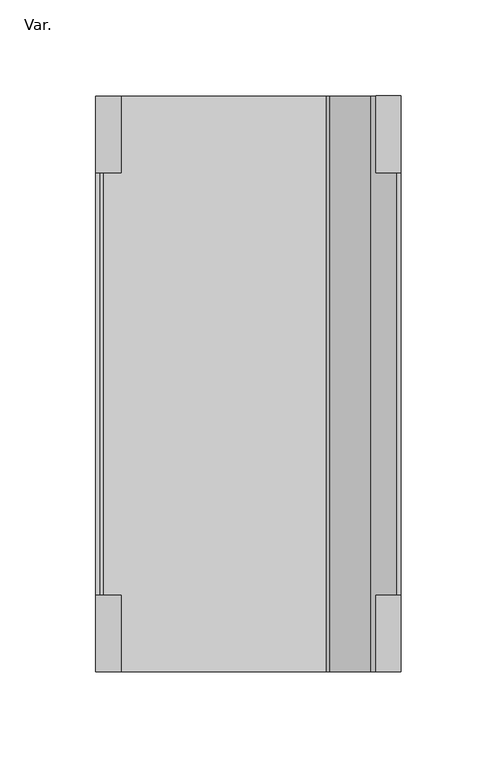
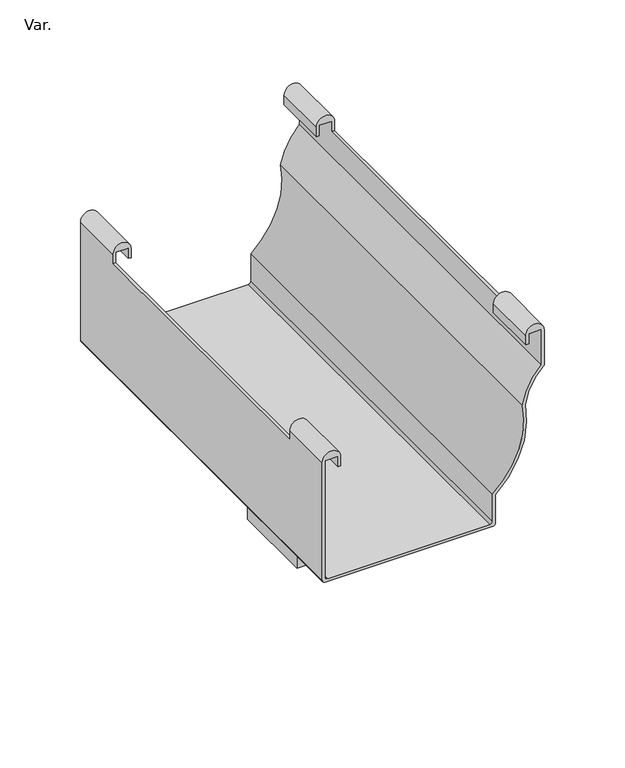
"""IFC4 building model written with IfcOpenShell, lengths in millimetres: pipe fitting geometry, PlastigamaWavin_Unionesdetubería_CanalesyBajantesZ_NoUsarUnióndeCanalBajante : Var.."""

from ifc_helpers import new_model, si_unit, frame, origin, place, context, project, spatial, polyline, circle_curve, outline, extrude, source, transform, mapped, element, save
from ifc_brep_helpers import plane_surface, cylinder_surface, revolved_surface, advanced_brep


def var_139db1cd(model_context):
    return source(origin(), model_context, "Body", "SolidModel", [
        extrude(outline(polyline([(215.5, -1.98), (183.55, -42.98), (116.45, -42.98), (84.5, -1.98), (215.5, -1.98)])), frame((-33.55, 0.0, 0.0), z_axis=(1.0, 0.0, 0.0), x_axis=(0.0, 1.0, 0.0)), (0.0, 0.0, 1.0), 67.1),
        extrude(outline(polyline([(28.63, 180.57), (28.63, 119.43), (-28.63, 119.43), (-28.63, 180.57), (28.63, 180.57)])), frame((0.0, 0.0, -80.98), z_axis=(0.0, 0.0, 1.0), x_axis=(1.0, 0.0, 0.0)), (0.0, 0.0, 1.0), 38.0),
        advanced_brep(
        [(40.54, 0.0, 0.0), (-75.54, 0.0, 0.0), (-77.52, 0.0, 1.98), (-77.52, 0.0, 89.9970327), (-68.375625, 0.0, 89.9970327), (-68.375625, 0.0, 82.1921011), (-66.395625, 0.0, 82.1921011), (-66.395625, 0.0, 89.2370327), (-79.5, 0.0, 89.2370327), (-79.5, 0.0, -0.0044269), (-77.532319, 0.0, -1.9721079), (42.7821347, 0.0, -1.98), (44.5, 0.0, 0.0), (44.5, 0.0, 21.5976754), (65.9131853, 0.0, 82.443142), (79.5, 0.0, 107.5123389), (79.5, 0.0, 134.2786343), (66.395625, 0.0, 134.2786343), (66.395625, 0.0, 127.2386343), (68.415625, 0.0, 127.2386343), (68.415625, 0.0, 135.0386343), (77.5042969, 0.0, 135.0386343), (77.5042969, 0.0, 108.3479503), (63.8929499, 0.0, 82.4684495), (42.52, 0.0, 22.5118086), (42.52, 0.0, 1.98), (40.54, 300.0, 0.0), (42.52, 300.0, 1.98), (42.52, 300.0, 22.5118086), (63.8929499, 300.0, 82.4684495), (77.5042969, 300.0, 108.3479503), (77.5042969, 300.0, 135.0386343), (68.415625, 300.0, 135.0386343), (68.415625, 300.0, 127.2386343), (66.395625, 300.0, 127.2386343), (66.395625, 300.0, 134.2786343), (79.5, 300.0, 134.2786343), (79.5, 300.0, 107.5123389), (65.9131853, 300.0, 82.443142), (44.5, 300.0, 21.5976754), (44.5, 300.0, 0.0), (42.7821347, 300.0, -1.98), (-77.532319, 300.0, -1.98), (-79.5, 300.0, -0.0044269), (-79.5, 300.0, 89.2370327), (-66.395625, 300.0, 89.2370327), (-66.395625, 300.0, 82.1921011), (-68.375625, 300.0, 82.1921011), (-68.375625, 300.0, 89.9970327), (-77.52, 300.0, 89.9970327), (-77.52, 300.0, 1.98), (-75.54, 300.0, 0.0), (79.5, 260.0, 127.2386343), (77.5042969, 260.0, 127.2386343), (77.5042969, 40.0, 127.2386343), (79.5, 40.0, 127.2386343), (79.5, 260.0, 134.2786343), (66.395625, 260.0, 134.2786343), (66.395625, 260.0, 127.2386343), (68.415625, 260.0, 127.2386343), (68.415625, 260.0, 135.0386343), (77.5042969, 260.0, 135.0386343), (77.5042969, 40.0, 135.0386343), (68.415625, 40.0, 135.0386343), (68.415625, 40.0, 127.2386343), (66.395625, 40.0, 127.2386343), (66.395625, 40.0, 134.2786343), (79.5, 40.0, 134.2786343), (-77.52, 260.0, 89.9970327), (-77.52, 260.0, 82.1921011), (-77.52, 40.0, 82.1921011), (-77.52, 40.0, 89.9970327), (-68.375625, 40.0, 89.9970327), (-68.375625, 260.0, 89.9970327), (-68.375625, 40.0, 82.1921011), (-68.375625, 260.0, 82.1921011), (-66.395625, 40.0, 82.1921011), (-66.395625, 260.0, 82.1921011), (-66.395625, 40.0, 89.2370327), (-66.395625, 260.0, 89.2370327), (-79.5, 40.0, 89.2370327), (-79.5, 260.0, 89.2370327), (-79.5, 40.0, 82.1921011), (-79.5, 260.0, 82.1921011)],
        [
            (0, 1),
            (1, 2, circle_curve(frame((-75.54, 0.0, 1.98), z_axis=(0.0, 1.0, 0.0), x_axis=(1.0, 0.0, 0.0)), 1.98)),
            (2, 3),
            (3, 4),
            (4, 5),
            (5, 6),
            (6, 7),
            (7, 8, circle_curve(frame((-72.9478125, 0.0, 89.2370327), z_axis=(0.0, -1.0, 0.0), x_axis=(1.0, 0.0, 0.0)), 6.5521875)),
            (8, 9),
            (9, 10, circle_curve(frame((-77.532319, 0.0, -0.0044269), z_axis=(0.0, -1.0, 0.0), x_axis=(1.0, 0.0, 0.0)), 1.967681)),
            (10, 11),
            (11, 12, circle_curve(frame((42.5, 0.0, 0.0), z_axis=(0.0, -1.0, 0.0), x_axis=(1.0, 0.0, 0.0)), 2.0)),
            (12, 13),
            (13, 14, circle_curve(frame((1.6947031, 0.0, 70.8527075), z_axis=(0.0, -1.0, 0.0), x_axis=(1.0, 0.0, 0.0)), 65.2560467)),
            (14, 15, circle_curve(frame((111.7560782, 0.0, 73.8139942), z_axis=(0.0, 1.0, 0.0), x_axis=(1.0, 0.0, 0.0)), 46.6479691)),
            (15, 16),
            (16, 17, circle_curve(frame((72.9478125, 0.0, 134.2786343), z_axis=(0.0, -1.0, 0.0), x_axis=(1.0, 0.0, 0.0)), 6.5521875)),
            (17, 18),
            (18, 19),
            (19, 20),
            (20, 21),
            (21, 22),
            (22, 23, circle_curve(frame((111.7560782, 0.0, 73.8139942), z_axis=(0.0, -1.0, 0.0), x_axis=(1.0, 0.0, 0.0)), 48.6392707)),
            (23, 24, circle_curve(frame((1.6947031, 0.0, 70.8527075), z_axis=(0.0, 1.0, 0.0), x_axis=(1.0, 0.0, 0.0)), 63.2735914)),
            (24, 25),
            (25, 0, circle_curve(frame((40.54, 0.0, 1.98), z_axis=(0.0, 1.0, 0.0), x_axis=(1.0, 0.0, 0.0)), 1.98)),
            (26, 27, circle_curve(frame((40.54, 300.0, 1.98), z_axis=(0.0, -1.0, 0.0), x_axis=(1.0, 0.0, 0.0)), 1.98)),
            (27, 28),
            (28, 29, circle_curve(frame((1.6947031, 300.0, 70.8527075), z_axis=(0.0, -1.0, 0.0), x_axis=(1.0, 0.0, 0.0)), 63.2735914)),
            (29, 30, circle_curve(frame((111.7560782, 300.0, 73.8139942), z_axis=(0.0, 1.0, 0.0), x_axis=(1.0, 0.0, 0.0)), 48.6392707)),
            (30, 31),
            (31, 32),
            (32, 33),
            (33, 34),
            (34, 35),
            (35, 36, circle_curve(frame((72.9478125, 300.0, 134.2786343), z_axis=(0.0, 1.0, 0.0), x_axis=(1.0, 0.0, 0.0)), 6.5521875)),
            (36, 37),
            (37, 38, circle_curve(frame((111.7560782, 300.0, 73.8139942), z_axis=(0.0, -1.0, 0.0), x_axis=(1.0, 0.0, 0.0)), 46.6479691)),
            (38, 39, circle_curve(frame((1.6947031, 300.0, 70.8527075), z_axis=(0.0, 1.0, 0.0), x_axis=(1.0, 0.0, 0.0)), 65.2560467)),
            (39, 40),
            (40, 41, circle_curve(frame((42.5, 300.0, 0.0), z_axis=(0.0, 1.0, 0.0), x_axis=(1.0, 0.0, 0.0)), 2.0)),
            (41, 42),
            (42, 43, circle_curve(frame((-77.532319, 300.0, -0.0044269), z_axis=(0.0, 1.0, 0.0), x_axis=(1.0, 0.0, 0.0)), 1.967681)),
            (43, 44),
            (44, 45, circle_curve(frame((-72.9478125, 300.0, 89.2370327), z_axis=(0.0, 1.0, 0.0), x_axis=(1.0, 0.0, 0.0)), 6.5521875)),
            (45, 46),
            (46, 47),
            (47, 48),
            (48, 49),
            (49, 50),
            (50, 51, circle_curve(frame((-75.54, 300.0, 1.98), z_axis=(0.0, -1.0, 0.0), x_axis=(1.0, 0.0, 0.0)), 1.98)),
            (51, 26),
            (52, 53),
            (53, 54),
            (54, 55),
            (55, 52),
            (52, 56),
            (56, 57, circle_curve(frame((72.9478125, 260.0, 134.2786343), z_axis=(0.0, -1.0, 0.0), x_axis=(1.0, 0.0, 0.0)), 6.5521875)),
            (57, 58),
            (58, 59),
            (59, 60),
            (60, 61),
            (61, 53),
            (54, 62),
            (62, 63),
            (63, 64),
            (64, 65),
            (65, 66),
            (66, 67, circle_curve(frame((72.9478125, 40.0, 134.2786343), z_axis=(0.0, 1.0, 0.0), x_axis=(1.0, 0.0, 0.0)), 6.5521875)),
            (67, 55),
            (0, 26),
            (51, 1),
            (50, 2),
            (49, 68),
            (68, 69),
            (69, 70),
            (70, 71),
            (71, 3),
            (71, 72),
            (72, 4),
            (48, 73),
            (73, 68),
            (72, 74),
            (74, 5),
            (47, 75),
            (75, 73),
            (74, 76),
            (76, 6),
            (46, 77),
            (77, 75),
            (76, 78),
            (78, 7),
            (45, 79),
            (79, 77),
            (78, 80, circle_curve(frame((-72.9478125, 40.0, 89.2370327), z_axis=(0.0, -1.0, 0.0), x_axis=(1.0, 0.0, 0.0)), 6.5521875)),
            (80, 8),
            (44, 81),
            (81, 79, circle_curve(frame((-72.9478125, 260.0, 89.2370327), z_axis=(0.0, 1.0, 0.0), x_axis=(1.0, 0.0, 0.0)), 6.5521875)),
            (80, 82),
            (82, 83),
            (83, 81),
            (43, 9),
            (42, 10),
            (41, 11),
            (40, 12),
            (39, 13),
            (38, 14),
            (37, 15),
            (36, 56),
            (67, 16),
            (66, 17),
            (35, 57),
            (65, 18),
            (34, 58),
            (64, 19),
            (33, 59),
            (63, 20),
            (32, 60),
            (62, 21),
            (31, 61),
            (30, 22),
            (29, 23),
            (28, 24),
            (27, 25),
            (69, 83),
            (82, 70),
        ],
        [
            plane_surface(frame((-75.54, 0.0, 0.0), z_axis=(0.0, -1.0, 0.0), x_axis=(-1.0, 0.0, 0.0))),
            plane_surface(frame((-75.54, 300.0, 0.0), z_axis=(0.0, 1.0, 0.0), x_axis=(1.0, 0.0, 0.0))),
            plane_surface(frame((66.48, 260.0, 127.2386343), z_axis=(0.0, 0.0, 1.0), x_axis=(1.0, 0.0, 0.0))),
            plane_surface(frame((79.5, 260.0, 141.0373842), z_axis=(0.0, -1.0, 0.0), x_axis=(0.0, 0.0, -1.0))),
            plane_surface(frame((66.395625, 40.0, 141.0373842), z_axis=(0.0, 1.0, 0.0), x_axis=(0.0, 0.0, -1.0))),
            plane_surface(frame((40.54, 0.0, 0.0), z_axis=(0.0, 0.0, 1.0), x_axis=(0.0, 1.0, 0.0))),
            revolved_surface(polyline([(-73.56, 300.0, 1.98), (-73.56, 0.0, 1.98)]), (-75.54, 300.0, 1.98), (0.0, 1.0, 0.0)),
            plane_surface(frame((-77.52, 0.0, 1.98), z_axis=(1.0, 0.0, 0.0), x_axis=(0.0, 1.0, 0.0))),
            plane_surface(frame((-77.52, 0.0, 89.9970327), z_axis=(0.0, 0.0, -1.0), x_axis=(0.0, 1.0, 0.0))),
            plane_surface(frame((-68.375625, 0.0, 89.9970327), z_axis=(-1.0, 0.0, 0.0), x_axis=(0.0, 1.0, 0.0))),
            plane_surface(frame((-68.375625, 0.0, 82.1921011), z_axis=(0.0, 0.0, -1.0), x_axis=(0.0, 1.0, 0.0))),
            plane_surface(frame((-66.395625, 0.0, 82.1921011), z_axis=(1.0, 0.0, 0.0), x_axis=(0.0, 1.0, 0.0))),
            cylinder_surface(frame((-72.9478125, 300.0, 89.2370327), z_axis=(0.0, -1.0, 0.0), x_axis=(1.0, 0.0, 0.0)), 6.5521875),
            plane_surface(frame((-79.5, 0.0, 89.2370327), z_axis=(-1.0, 0.0, 0.0), x_axis=(0.0, 1.0, 0.0))),
            cylinder_surface(frame((-77.532319, 300.0, -0.0044269), z_axis=(0.0, -1.0, 0.0), x_axis=(1.0, 0.0, 0.0)), 1.967681),
            plane_surface(frame((-77.532319, 0.0, -1.98), z_axis=(0.0, 0.0, -1.0), x_axis=(0.0, 1.0, 0.0))),
            cylinder_surface(frame((42.5, 300.0, 0.0), z_axis=(0.0, -1.0, 0.0), x_axis=(1.0, 0.0, 0.0)), 2.0),
            plane_surface(frame((44.5, 0.0, 0.0), z_axis=(1.0, 0.0, 0.0), x_axis=(0.0, 1.0, 0.0))),
            cylinder_surface(frame((1.6947031, 300.0, 70.8527075), z_axis=(0.0, -1.0, 0.0), x_axis=(1.0, 0.0, 0.0)), 65.2560467),
            revolved_surface(polyline([(158.4040473, 300.0, 73.8139942), (158.4040473, 0.0, 73.8139942)]), (111.7560782, 300.0, 73.8139942), (0.0, 1.0, 0.0)),
            plane_surface(frame((79.5, 0.0, 107.5123389), z_axis=(1.0, 0.0, 0.0), x_axis=(0.0, 1.0, 0.0))),
            cylinder_surface(frame((72.9478125, 300.0, 134.2786343), z_axis=(0.0, -1.0, 0.0), x_axis=(1.0, 0.0, 0.0)), 6.5521875),
            plane_surface(frame((66.395625, 0.0, 134.2786343), z_axis=(-1.0, 0.0, 0.0), x_axis=(0.0, 1.0, 0.0))),
            plane_surface(frame((66.395625, 0.0, 127.2386343), z_axis=(0.0, 0.0, -1.0), x_axis=(0.0, 1.0, 0.0))),
            plane_surface(frame((68.415625, 0.0, 127.2386343), z_axis=(1.0, 0.0, 0.0), x_axis=(0.0, 1.0, 0.0))),
            plane_surface(frame((68.415625, 0.0, 135.0386343), z_axis=(0.0, 0.0, -1.0), x_axis=(0.0, 1.0, 0.0))),
            plane_surface(frame((77.5042969, 0.0, 135.0386343), z_axis=(-1.0, 0.0, 0.0), x_axis=(0.0, 1.0, 0.0))),
            cylinder_surface(frame((111.7560782, 300.0, 73.8139942), z_axis=(0.0, -1.0, 0.0), x_axis=(1.0, 0.0, 0.0)), 48.6392707),
            revolved_surface(polyline([(64.9682945, 300.0, 70.8527075), (64.9682945, 0.0, 70.8527075)]), (1.6947031, 300.0, 70.8527075), (0.0, 1.0, 0.0)),
            plane_surface(frame((42.52, 0.0, 22.5118086), z_axis=(-1.0, 0.0, 0.0), x_axis=(0.0, 1.0, 0.0))),
            revolved_surface(polyline([(42.519999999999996, 300.0, 1.98), (42.519999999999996, 0.0, 1.98)]), (40.54, 300.0, 1.98), (0.0, 1.0, 0.0)),
            plane_surface(frame((-79.5, 260.0, 82.1921011), z_axis=(0.0, 0.0, 1.0), x_axis=(1.0, 0.0, 0.0))),
            plane_surface(frame((-66.395625, 260.0, 96.5254665), z_axis=(0.0, -1.0, 0.0), x_axis=(0.0, 0.0, -1.0))),
            plane_surface(frame((-79.5, 40.0, 96.5254665), z_axis=(0.0, 1.0, 0.0), x_axis=(0.0, 0.0, -1.0))),
        ],
        [
            (0, [[1, 2, 3, 4, 5, 6, 7, 8, 9, 10, 11, 12, 13, 14, 15, 16, 17, 18, 19, 20, 21, 22, 23, 24, 25, 26]]),
            (1, [[27, 28, 29, 30, 31, 32, 33, 34, 35, 36, 37, 38, 39, 40, 41, 42, 43, 44, 45, 46, 47, 48, 49, 50, 51, 52]]),
            (2, [[53, 54, 55, 56]]),
            (3, [[-53, 57, 58, 59, 60, 61, 62, 63]]),
            (4, [[-55, 64, 65, 66, 67, 68, 69, 70]]),
            (5, [[-1, 71, -52, 72]]),
            (6, [[-2, -72, -51, 73]]),
            (7, [[-3, -73, -50, 74, 75, 76, 77, 78]]),
            (8, [[-4, -78, 79, 80]]),
            (8, [[-49, 81, 82, -74]]),
            (9, [[-5, -80, 83, 84]]),
            (9, [[-48, 85, 86, -81]]),
            (10, [[-6, -84, 87, 88]]),
            (10, [[-47, 89, 90, -85]]),
            (11, [[-7, -88, 91, 92]]),
            (11, [[-46, 93, 94, -89]]),
            (12, [[-8, -92, 95, 96]]),
            (12, [[-45, 97, 98, -93]]),
            (13, [[-9, -96, 99, 100, 101, -97, -44, 102]]),
            (14, [[-10, -102, -43, 103]]),
            (15, [[-11, -103, -42, 104]]),
            (16, [[-12, -104, -41, 105]]),
            (17, [[-13, -105, -40, 106]]),
            (18, [[-14, -106, -39, 107]]),
            (19, [[-15, -107, -38, 108]]),
            (20, [[-16, -108, -37, 109, -57, -56, -70, 110]]),
            (21, [[-17, -110, -69, 111]]),
            (21, [[-36, 112, -58, -109]]),
            (22, [[-18, -111, -68, 113]]),
            (22, [[-35, 114, -59, -112]]),
            (23, [[-19, -113, -67, 115]]),
            (23, [[-34, 116, -60, -114]]),
            (24, [[-20, -115, -66, 117]]),
            (24, [[-33, 118, -61, -116]]),
            (25, [[-21, -117, -65, 119]]),
            (25, [[-32, 120, -62, -118]]),
            (26, [[-22, -119, -64, -54, -63, -120, -31, 121]]),
            (27, [[-23, -121, -30, 122]]),
            (28, [[-24, -122, -29, 123]]),
            (29, [[-25, -123, -28, 124]]),
            (30, [[-26, -124, -27, -71]]),
            (31, [[125, -100, 126, -76]]),
            (32, [[-125, -75, -82, -86, -90, -94, -98, -101]]),
            (33, [[-126, -99, -95, -91, -87, -83, -79, -77]]),
        ],
    ),
    ])


if __name__ == "__main__":
    model = new_model("IFC4")
    model_context = context("Model", 3, world=origin())
    ifc_project = project(units=[si_unit("LENGTHUNIT", "METRE", prefix="MILLI")], contexts=[model_context])
    site = spatial("IfcSite", under=ifc_project)
    building = spatial("IfcBuilding", under=site)
    placement = place(None, origin())
    var_shape = var_139db1cd(model_context)
    element("IfcPipeFitting", 1, ObjectType="PlastigamaWavin_Unionesdetubería_CanalesyBajantesZ_NoUsarUnióndeCanalBajante : Var.", at=placement, inside=building, context=model_context, shape_type="MappedRepresentation", body=[
        mapped(var_shape, transform((0.0, 0.0, 0.0), x_axis=(1.0, 0.0, 0.0), y_axis=(0.0, 1.0, 0.0), z_axis=(0.0, 0.0, 1.0))),
    ])
    save(model, "model.ifc")
